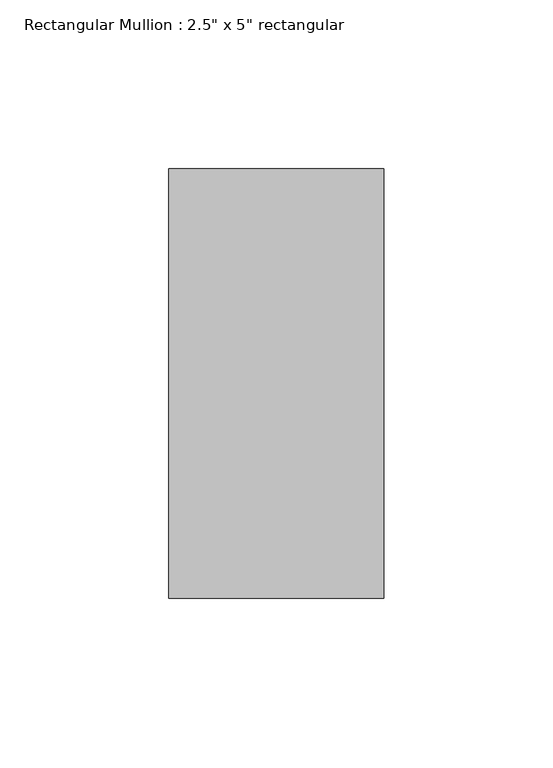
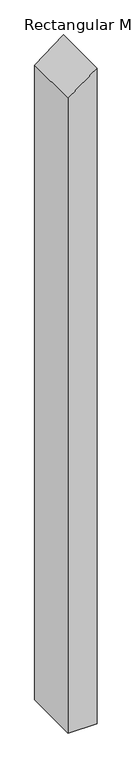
"""IFC4 building model written with IfcOpenShell, lengths in millimetres: member geometry."""

import ifcopenshell
import ifcopenshell.guid

model = None  # the IFC model being written
_history = None  # IfcOwnerHistory: only IFC2X3 demands one
_inside = {}  # id of a spatial element -> (the spatial element, [elements in it])
_under = {}  # id of a project, library or spatial element -> (it, [spatial elements below it])
_declared = {}  # id of a project -> (the project, [libraries it declares])
_typed = {}  # id of a type object -> (the type object, [elements of that type])
_made_of = {}  # id of a material, layer set ... -> (it, [elements and type objects made of it])


def new_model(schema):
    """Start an empty IFC model of exactly this schema.

    Asked for "IFC4X3", IfcOpenShell would pick the latest addendum, in which some entities
    have other attributes; the version numbers below select the first issue.
    IFC2X3 requires an IfcOwnerHistory on every rooted entity: one is made here for all.
    """
    global model, _history
    if schema == "IFC4X3":
        model = ifcopenshell.file(schema_version=(4, 3, 0, 0))
    else:
        model = ifcopenshell.file(schema=schema)
    _inside.clear()
    _under.clear()
    _declared.clear()
    _typed.clear()
    _made_of.clear()
    _history = None
    if model.schema == "IFC2X3":
        org = make("IfcOrganization", Name="unknown")
        user = make(
            "IfcPersonAndOrganization",
            ThePerson=make("IfcPerson", FamilyName="unknown"),
            TheOrganization=org,
        )
        app = make(
            "IfcApplication",
            ApplicationDeveloper=org,
            Version="unknown",
            ApplicationFullName="unknown",
            ApplicationIdentifier="unknown",
        )
        _history = make(
            "IfcOwnerHistory",
            OwningUser=user,
            OwningApplication=app,
            ChangeAction="ADDED",
            CreationDate=0,
        )
    return model


def make(cls, **values):
    """One entity of the class cls with the attributes given. An attribute that is None is left unset."""
    return model.create_entity(
        cls, **{name: value for name, value in values.items() if value is not None}
    )


def rooted(cls, **values):
    """An entity with a GlobalId (a new one), such as an element, a storey or a relation."""
    return make(cls, GlobalId=ifcopenshell.guid.new(), OwnerHistory=_history, **values)


def si_unit(unit_type, name, prefix=None):
    """IfcSIUnit, for example si_unit("LENGTHUNIT", "METRE", prefix="MILLI")."""
    return make("IfcSIUnit", UnitType=unit_type, Prefix=prefix, Name=name)


def assignment(units):
    """IfcUnitAssignment: the units of a project."""
    return None if units is None else make("IfcUnitAssignment", Units=units)


def point(xyz):
    """IfcCartesianPoint."""
    return None if xyz is None else make("IfcCartesianPoint", Coordinates=xyz)


def direction(xyz):
    """IfcDirection."""
    return None if xyz is None else make("IfcDirection", DirectionRatios=xyz)


def frame(location, z_axis=None, x_axis=None):
    """IfcAxis2Placement3D, a coordinate frame: its origin and axes. An axis left out is left unset."""
    return make(
        "IfcAxis2Placement3D",
        Location=point(location),
        Axis=direction(z_axis),
        RefDirection=direction(x_axis),
    )


def origin():
    """The frame at (0, 0, 0) with its axes left unset."""
    return frame((0.0, 0.0, 0.0))


def place(relative_to, where):
    """IfcLocalPlacement: puts the frame where relative to a parent placement (None: the world)."""
    return make(
        "IfcLocalPlacement", PlacementRelTo=relative_to, RelativePlacement=where
    )


def context(
    kind, dimensions, precision=None, world=None, true_north=None, identifier=None
):
    """IfcGeometricRepresentationContext, for example the 3D "Model" context."""
    return make(
        "IfcGeometricRepresentationContext",
        ContextIdentifier=identifier,
        ContextType=kind,
        CoordinateSpaceDimension=dimensions,
        Precision=precision,
        WorldCoordinateSystem=world,
        TrueNorth=true_north,
    )


def project(units=None, contexts=None):
    """IfcProject with its units and contexts."""
    return rooted(
        "IfcProject",
        Name="project",
        RepresentationContexts=contexts,
        UnitsInContext=assignment(units),
    )


def spatial(cls, under=None, at=None, **own):
    """A site, building, storey or space (cls), placed at a placement, below another one or the project."""
    s = rooted(cls, ObjectPlacement=at, **own)
    if under is not None:
        _under.setdefault(under.id(), (under, []))[1].append(s)
    return s


def polyline(points):
    """IfcPolyline through the points."""
    return make("IfcPolyline", Points=[point(p) for p in points])


def outline(outer, holes=None, kind="AREA"):
    """IfcArbitraryClosedProfileDef: a profile drawn as a closed curve; with holes, ...WithVoids."""
    if holes is None:
        return make("IfcArbitraryClosedProfileDef", ProfileType=kind, OuterCurve=outer)
    return make(
        "IfcArbitraryProfileDefWithVoids",
        ProfileType=kind,
        OuterCurve=outer,
        InnerCurves=holes,
    )


def extrude(swept, where, along, depth):
    """IfcExtrudedAreaSolid: the profile swept, set in the frame where, extruded along a direction by depth."""
    return make(
        "IfcExtrudedAreaSolid",
        SweptArea=swept,
        Position=where,
        ExtrudedDirection=direction(along),
        Depth=depth,
    )


def shape(context_of_items, identifier, shape_type, items):
    """IfcShapeRepresentation: the items that make up one representation, for example the "Body"."""
    return make(
        "IfcShapeRepresentation",
        ContextOfItems=context_of_items,
        RepresentationIdentifier=identifier,
        RepresentationType=shape_type,
        Items=items,
    )


def source(mapping_origin, context_of_items, identifier, shape_type, items):
    """IfcRepresentationMap: a shape defined once, which mapped items show again and again."""
    return make(
        "IfcRepresentationMap",
        MappingOrigin=mapping_origin,
        MappedRepresentation=shape(context_of_items, identifier, shape_type, items),
    )


def transform(
    local_origin,
    x_axis=None,
    y_axis=None,
    z_axis=None,
    scale=None,
    scale2=None,
    scale3=None,
    uniform=True,
):
    """IfcCartesianTransformationOperator3D, or its non-uniform kind. x_axis, y_axis, z_axis: its Axis1, 2, 3."""
    if uniform:
        return make(
            "IfcCartesianTransformationOperator3D",
            Axis1=direction(x_axis),
            Axis2=direction(y_axis),
            LocalOrigin=point(local_origin),
            Scale=scale,
            Axis3=direction(z_axis),
        )
    return make(
        "IfcCartesianTransformationOperator3DnonUniform",
        Axis1=direction(x_axis),
        Axis2=direction(y_axis),
        LocalOrigin=point(local_origin),
        Scale=scale,
        Axis3=direction(z_axis),
        Scale2=scale2,
        Scale3=scale3,
    )


def mapped(mapping_source, mapping_target):
    """IfcMappedItem: shows the shape of a source again, moved by a transform."""
    return make(
        "IfcMappedItem", MappingSource=mapping_source, MappingTarget=mapping_target
    )


def made_of(thing, what):
    """Note that an element or type object is made of a material, layer set ...; save() writes the relation."""
    if what is not None:
        _made_of.setdefault(what.id(), (what, []))[1].append(thing)
    return thing


def element(
    cls,
    number,
    at=None,
    inside=None,
    cuts=None,
    type_object=None,
    material=None,
    context=None,
    identifier="Body",
    shape_type=None,
    held_by="IfcProductDefinitionShape",
    body=None,
    shapes=None,
    **own,
):
    """One element of the class cls, such as IfcWall. Its Tag is "e" and its number.

    at: its placement. inside: the storey or other place that contains it. cuts: it is an
    opening in that element (IfcRelVoidsElement). A single representation is given by context,
    identifier, shape_type and body (its items); several are given by shapes. held_by: the class
    of the entity that holds the representations. save() writes the other relations.
    """
    e = rooted(cls, Tag="e%d" % number, ObjectPlacement=at, **own)
    if body is not None:
        shapes = [shape(context, identifier, shape_type, body)]
    if shapes is not None:
        e.Representation = make(held_by, Representations=shapes)
    if inside is not None:
        _inside.setdefault(inside.id(), (inside, []))[1].append(e)
    if cuts is not None:
        rooted(
            "IfcRelVoidsElement", RelatingBuildingElement=cuts, RelatedOpeningElement=e
        )
    if type_object is not None:
        _typed.setdefault(type_object.id(), (type_object, []))[1].append(e)
    return made_of(e, material)


def aggregate(whole, parts):
    """IfcRelAggregates: a whole, such as a stair, and the parts it consists of."""
    return rooted("IfcRelAggregates", RelatingObject=whole, RelatedObjects=parts)


def save(model, path):
    """Write the relations noted so far, then the file.

    IfcRelAggregates (storeys below a building ...), IfcRelContainedInSpatialStructure (elements
    in a storey), IfcRelDefinesByType, IfcRelAssociatesMaterial and IfcRelDeclares: one each for
    every whole, place, type object, material and project.
    """
    for whole, parts in _under.values():
        aggregate(whole, parts)
    for where, things in _inside.values():
        rooted(
            "IfcRelContainedInSpatialStructure",
            RelatedElements=things,
            RelatingStructure=where,
        )
    for kind, things in _typed.values():
        rooted("IfcRelDefinesByType", RelatedObjects=things, RelatingType=kind)
    for what, things in _made_of.values():
        rooted("IfcRelAssociatesMaterial", RelatedObjects=things, RelatingMaterial=what)
    for by, libraries in _declared.values():
        rooted("IfcRelDeclares", RelatingContext=by, RelatedDefinitions=libraries)
    model.write(path)


def member_d19be1f0(model_context):
    return source(origin(), model_context, "Body", "SweptSolid", [
        extrude(outline(polyline([(0.0, 0.0), (-48.1172242, -63.5), (-1524.0, -63.5), (-1524.0, 0.0), (0.0, 0.0)])), frame((0.0, -63.5, 0.0), z_axis=(0.0, 1.0, 0.0), x_axis=(0.0, 0.0, 1.0)), (0.0, 0.0, 1.0), 127.0),
    ])


if __name__ == "__main__":
    model = new_model("IFC4")
    model_context = context("Model", 3, world=origin())
    ifc_project = project(units=[si_unit("LENGTHUNIT", "METRE", prefix="MILLI")], contexts=[model_context])
    site = spatial("IfcSite", under=ifc_project)
    building = spatial("IfcBuilding", under=site)
    placement = place(None, origin())
    member_shape = member_d19be1f0(model_context)
    element("IfcMember", 1, ObjectType="Rectangular Mullion : 2.5\" x 5\" rectangular", at=placement, inside=building, context=model_context, shape_type="MappedRepresentation", body=[
        mapped(member_shape, transform((0.0, 0.0, 0.0), x_axis=(1.0, 0.0, 0.0), y_axis=(0.0, 1.0, 0.0), z_axis=(0.0, 0.0, 1.0))),
    ])
    save(model, "model.ifc")
